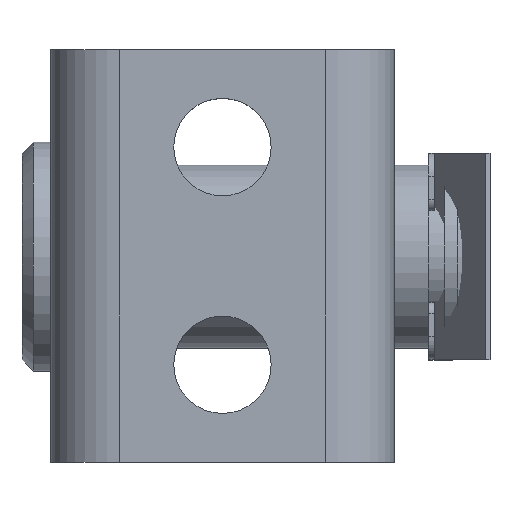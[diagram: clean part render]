
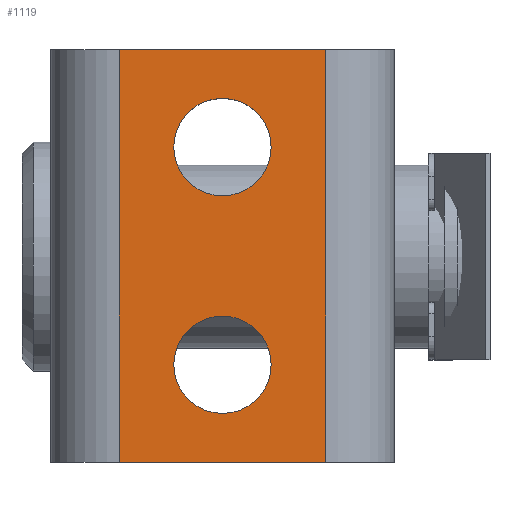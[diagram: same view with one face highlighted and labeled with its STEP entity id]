
A CAD part, top view. The second image highlights one B-rep face of the part: STEP entity #1119.
In plain terms, the highlighted planar face has unit normal (0, 0, 1).
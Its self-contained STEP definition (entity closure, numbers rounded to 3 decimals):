
#40=FACE_BOUND('',#167,.T.);
#41=FACE_BOUND('',#168,.T.);
#61=PLANE('',#1193);
#98=FACE_OUTER_BOUND('',#166,.T.);
#166=EDGE_LOOP('',(#774,#775,#776,#777));
#167=EDGE_LOOP('',(#778));
#168=EDGE_LOOP('',(#779));
#255=LINE('',#1711,#348);
#256=LINE('',#1714,#349);
#257=LINE('',#1716,#350);
#258=LINE('',#1717,#351);
#348=VECTOR('',#1338,36.);
#349=VECTOR('',#1341,18.);
#350=VECTOR('',#1342,36.);
#351=VECTOR('',#1343,18.);
#442=CIRCLE('',#1194,4.25);
#443=CIRCLE('',#1195,4.25);
#503=VERTEX_POINT('',#1704);
#506=VERTEX_POINT('',#1709);
#507=VERTEX_POINT('',#1713);
#508=VERTEX_POINT('',#1715);
#509=VERTEX_POINT('',#1718);
#510=VERTEX_POINT('',#1720);
#614=EDGE_CURVE('',#506,#503,#255,.T.);
#615=EDGE_CURVE('',#507,#506,#256,.T.);
#616=EDGE_CURVE('',#508,#507,#257,.T.);
#617=EDGE_CURVE('',#503,#508,#258,.T.);
#618=EDGE_CURVE('',#509,#509,#442,.T.);
#619=EDGE_CURVE('',#510,#510,#443,.T.);
#774=ORIENTED_EDGE('',*,*,#614,.F.);
#775=ORIENTED_EDGE('',*,*,#615,.F.);
#776=ORIENTED_EDGE('',*,*,#616,.F.);
#777=ORIENTED_EDGE('',*,*,#617,.F.);
#778=ORIENTED_EDGE('',*,*,#618,.T.);
#779=ORIENTED_EDGE('',*,*,#619,.T.);
#1119=ADVANCED_FACE('',(#98,#40,#41),#61,.T.);
#1193=AXIS2_PLACEMENT_3D('',#1712,#1339,#1340);
#1194=AXIS2_PLACEMENT_3D('',#1719,#1344,#1345);
#1195=AXIS2_PLACEMENT_3D('',#1721,#1346,#1347);
#1338=DIRECTION('',(0.,1.,0.));
#1339=DIRECTION('center_axis',(0.,0.,1.));
#1340=DIRECTION('ref_axis',(0.,-1.,0.));
#1341=DIRECTION('',(-1.,0.,0.));
#1342=DIRECTION('',(0.,-1.,0.));
#1343=DIRECTION('',(1.,0.,0.));
#1344=DIRECTION('center_axis',(0.,0.,-1.));
#1345=DIRECTION('ref_axis',(-1.,0.,0.));
#1346=DIRECTION('center_axis',(0.,0.,-1.));
#1347=DIRECTION('ref_axis',(-1.,0.,0.));
#1704=CARTESIAN_POINT('',(-9.,18.,42.));
#1709=CARTESIAN_POINT('',(-9.,-18.,42.));
#1711=CARTESIAN_POINT('',(-9.,9.,42.));
#1712=CARTESIAN_POINT('Origin',(0.,18.,42.));
#1713=CARTESIAN_POINT('',(9.,-18.,42.));
#1714=CARTESIAN_POINT('',(0.,-18.,42.));
#1715=CARTESIAN_POINT('',(9.,18.,42.));
#1716=CARTESIAN_POINT('',(9.,9.,42.));
#1717=CARTESIAN_POINT('',(0.,18.,42.));
#1718=CARTESIAN_POINT('',(4.25,9.5,42.));
#1719=CARTESIAN_POINT('Origin',(0.,9.5,42.));
#1720=CARTESIAN_POINT('',(4.25,-9.5,42.));
#1721=CARTESIAN_POINT('Origin',(0.,-9.5,42.));
